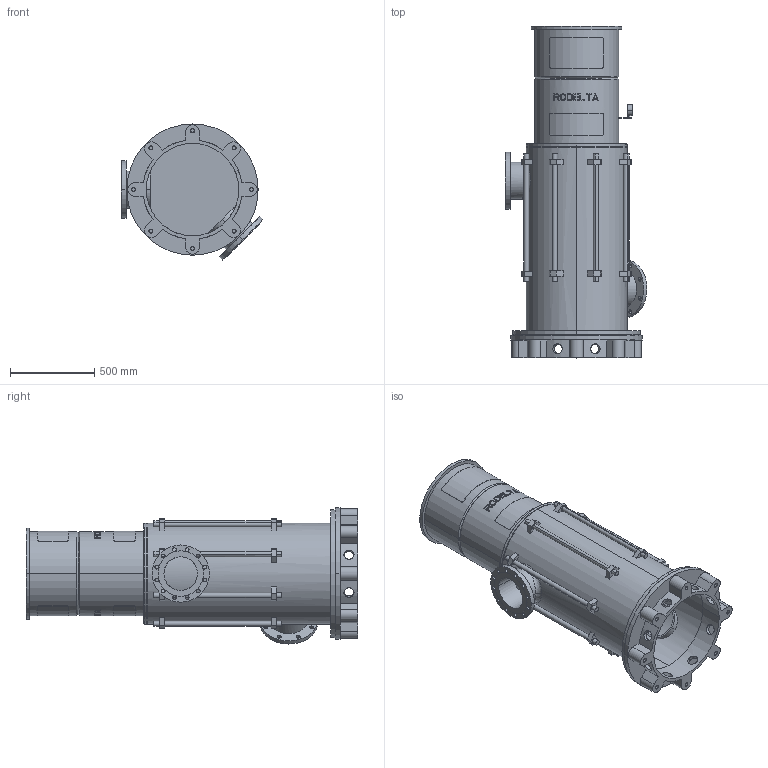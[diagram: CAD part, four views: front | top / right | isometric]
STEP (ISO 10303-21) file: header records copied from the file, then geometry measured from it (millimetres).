
FILE_DESCRIPTION((''),'2;1');
FILE_NAME('LS8_2TR_0GR','2025-10-17T13:01:00',('Lyritlocal'),(''),'CREO PARAMETRIC BY PTC INC, 2022014','CREO PARAMETRIC BY PTC INC, 2022014','');
FILE_SCHEMA(('CONFIG_CONTROL_DESIGN'));
Length unit declared in the file: millimetre
Products named in the file (1): LS8_2TR_0GR
Bounding box: 843.61 x 1972 x 808.61 mm (x, y, z)
Volume: 70966732.3 mm3; surface area: 9758257 mm2
Topology: 3 solids, 11 shells, 723 faces, 1878 edges, 1246 vertices
Faces by surface type: plane 440, cylinder 267, cone 12, bspline 4
Entity records: 23727 total; most frequent: CARTESIAN_POINT 6046, ORIENTED_EDGE 3724, DIRECTION 3488, EDGE_CURVE 1878, AXIS2_PLACEMENT_3D 1302, VERTEX_POINT 1246, EDGE_LOOP 888, VECTOR 884
